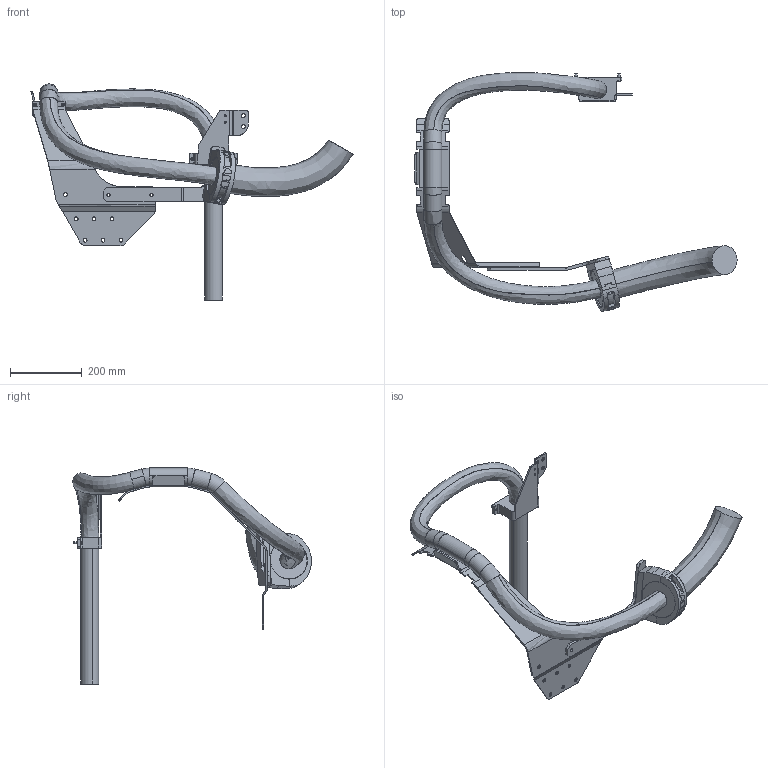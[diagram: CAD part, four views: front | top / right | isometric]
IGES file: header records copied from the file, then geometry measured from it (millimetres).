
Start section: SolidWorks IGES file using analytic representation for surfaces
Global section: file name: C:\DATA\SAP_DOC\LW\IRB 6730\IRB6730-LID-SW_190kg-310_OC_01_SW_J\Export\IRB6730-LID-SW_190kg-310_OC_01_IGES_J\IRB6730-LID-SW_190kg-310_OC_00_LINK01_CABLE.igs; native system: SolidWorks 2024; preprocessor: SolidWorks 2024; author: SEJOVAS3; date: 260526.111348; units: millimetre
Bounding box: 898.01 x 665.8 x 602.16 mm (x, y, z)
Surface area: 706516 mm2 (no closed solid volume)
Topology: 0 solids, 0 shells, 388 faces, 5648 edges, 5648 vertices
Faces by surface type: bspline 222, revolution 166
